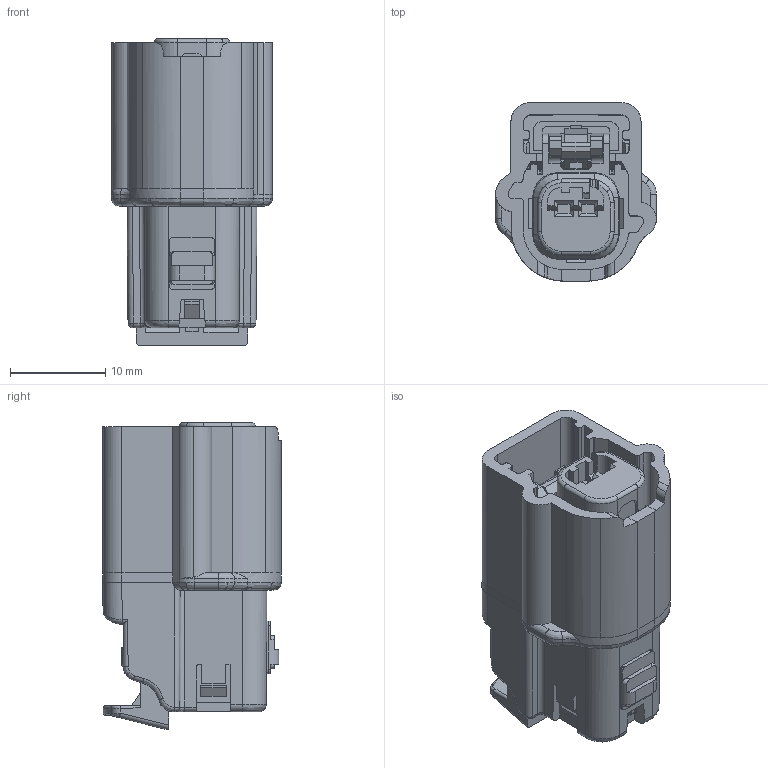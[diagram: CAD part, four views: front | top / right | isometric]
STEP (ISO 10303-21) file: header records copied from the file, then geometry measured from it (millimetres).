
FILE_DESCRIPTION(('STEP AP242'),'1');
FILE_NAME('314032610.stp','2025-11-19T03:58:18',('TraceParts'),('TraceParts S.A.S.'),'Spatial InterOp 3D',' ',' ');
FILE_SCHEMA(('AP242_MANAGED_MODEL_BASED_3D_ENGINEERING_MIM_LF {1 0 10303 442 1 1 4}'));
Length unit declared in the file: millimetre
Products named in the file (1): EM-31412-211_D PDM 000_2 CKT GET CONNECTOR
Bounding box: 16.88 x 18.7 x 32.13 mm (x, y, z)
Volume: 4107.3 mm3; surface area: 5264.2 mm2
Topology: 1 solids, 1 shells, 832 faces, 2307 edges, 1474 vertices
Faces by surface type: plane 511, cylinder 223, bspline 60, torus 24, cone 14
Entity records: 36252 total; most frequent: CARTESIAN_POINT 8629, ORIENTED_EDGE 4614, DIRECTION 4044, EDGE_CURVE 2307, LINE 1638, VECTOR 1638, VERTEX_POINT 1474, AXIS2_PLACEMENT_3D 1203
